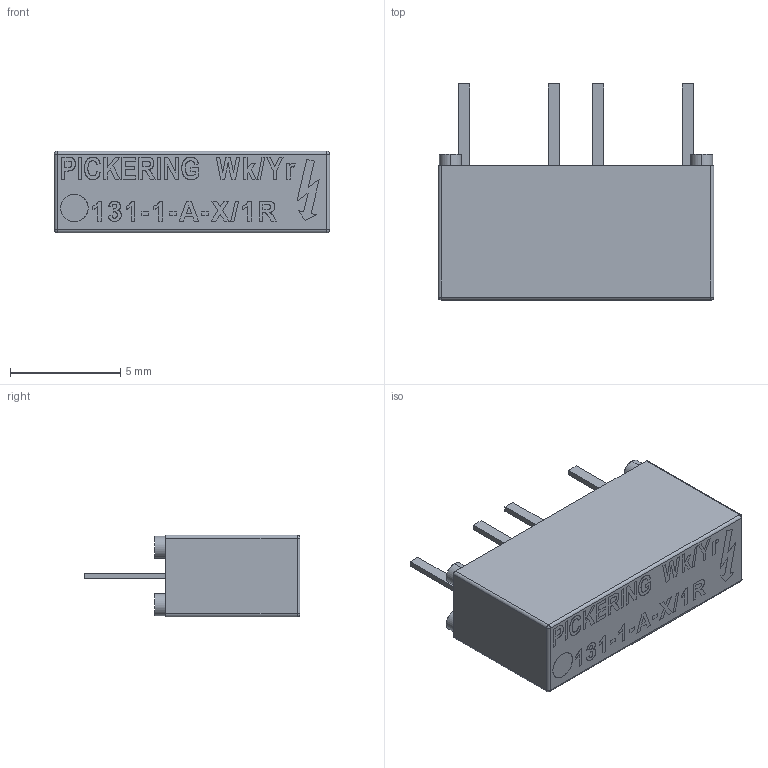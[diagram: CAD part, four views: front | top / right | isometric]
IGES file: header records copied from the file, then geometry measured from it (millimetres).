
Start section: SolidWorks IGES file using analytic representation for surfaces
Global section: file name: T:\ISO2\QMS\DESIGN & DEVELOPMENT\UK PRODUCT\Open Projects\DD031 131 Series\Models for website\131-1-A-X-1R.IGS; native system: SolidWorks 2019; preprocessor: SolidWorks 2019; author: robert.king; date: 200213.161259; units: millimetre
Bounding box: 12.5 x 9.8 x 3.7 mm (x, y, z)
Surface area: 315.6 mm2 (no closed solid volume)
Topology: 0 solids, 0 shells, 346 faces, 2647 edges, 2643 vertices
Faces by surface type: bspline 324, revolution 22
